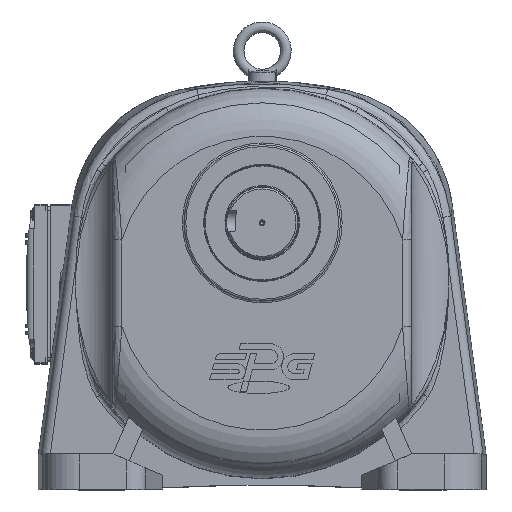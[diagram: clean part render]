
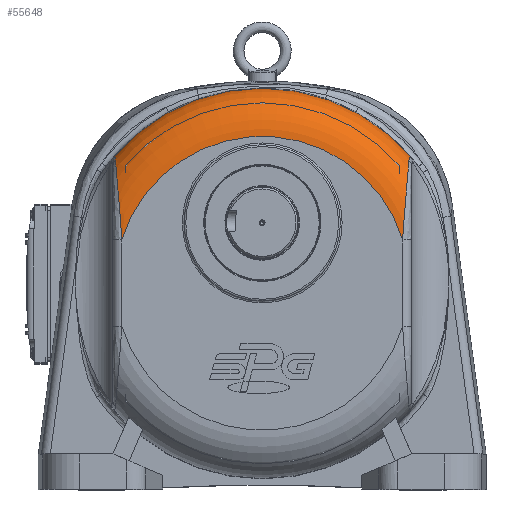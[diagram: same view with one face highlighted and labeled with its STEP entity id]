
A CAD part, top view. The second image highlights one B-rep face of the part: STEP entity #55648.
In plain terms, the highlighted toroidal (fillet/blend) face has major radius 82.678 mm and minor radius 27 mm.
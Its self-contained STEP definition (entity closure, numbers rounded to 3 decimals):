
#650=TOROIDAL_SURFACE('',#60806,82.678,27.);
#11547=FACE_OUTER_BOUND('',#14895,.T.);
#14895=EDGE_LOOP('',(#46139,#46140,#46141,#46142,#46143,#46144));
#18086=CIRCLE('',#60778,109.669);
#18092=CIRCLE('',#60807,82.678);
#20393=B_SPLINE_CURVE_WITH_KNOTS('',3,(#123357,#123358,#123359,#123360,
#123361),.UNSPECIFIED.,.F.,.F.,(4,1,4),(-0.783,-0.447,
0.),.UNSPECIFIED.);
#20394=B_SPLINE_CURVE_WITH_KNOTS('',3,(#123363,#123364,#123365,#123366,
#123367,#123368,#123369,#123370,#123371,#123372),.UNSPECIFIED.,.F.,.F.,
(4,1,1,1,1,1,1,4),(-4.597,-3.776,-3.284,
-1.97,-1.642,-0.657,-0.493,
0.),.UNSPECIFIED.);
#20395=B_SPLINE_CURVE_WITH_KNOTS('',3,(#123376,#123377,#123378,#123379,
#123380,#123381,#123382,#123383,#123384),.UNSPECIFIED.,.F.,.F.,(4,1,1,1,
1,1,4),(-14.071,-13.415,-12.758,-12.43,
-12.101,-10.788,-9.474),.UNSPECIFIED.);
#20396=B_SPLINE_CURVE_WITH_KNOTS('',3,(#123385,#123386,#123387,#123388,
#123389),.UNSPECIFIED.,.F.,.F.,(4,1,4),(-0.783,-0.447,
0.),.UNSPECIFIED.);
#24434=VERTEX_POINT('',#122975);
#24436=VERTEX_POINT('',#122996);
#24460=VERTEX_POINT('',#123356);
#24461=VERTEX_POINT('',#123362);
#24462=VERTEX_POINT('',#123373);
#24463=VERTEX_POINT('',#123375);
#31895=EDGE_CURVE('',#24434,#24436,#18086,.T.);
#31940=EDGE_CURVE('',#24460,#24436,#20393,.T.);
#31941=EDGE_CURVE('',#24461,#24460,#20394,.T.);
#31942=EDGE_CURVE('',#24461,#24462,#18092,.T.);
#31943=EDGE_CURVE('',#24463,#24462,#20395,.T.);
#31944=EDGE_CURVE('',#24434,#24463,#20396,.T.);
#46139=ORIENTED_EDGE('',*,*,#31895,.T.);
#46140=ORIENTED_EDGE('',*,*,#31940,.F.);
#46141=ORIENTED_EDGE('',*,*,#31941,.F.);
#46142=ORIENTED_EDGE('',*,*,#31942,.T.);
#46143=ORIENTED_EDGE('',*,*,#31943,.F.);
#46144=ORIENTED_EDGE('',*,*,#31944,.F.);
#55648=ADVANCED_FACE('',(#11547),#650,.T.);
#60778=AXIS2_PLACEMENT_3D('',#123003,#73154,#73155);
#60806=AXIS2_PLACEMENT_3D('',#123355,#73235,#73236);
#60807=AXIS2_PLACEMENT_3D('',#123374,#73237,#73238);
#73154=DIRECTION('center_axis',(0.,0.,1.));
#73155=DIRECTION('ref_axis',(-1.,0.,0.));
#73235=DIRECTION('center_axis',(0.,0.,-1.));
#73236=DIRECTION('ref_axis',(-1.,0.,0.));
#73237=DIRECTION('center_axis',(0.,0.,-1.));
#73238=DIRECTION('ref_axis',(-1.,0.,0.));
#122975=CARTESIAN_POINT('',(91.232,73.2,33.186));
#122996=CARTESIAN_POINT('',(-76.592,73.2,33.186));
#123003=CARTESIAN_POINT('Origin',(7.32,2.588,33.186));
#123355=CARTESIAN_POINT('Origin',(7.32,2.588,32.5));
#123356=CARTESIAN_POINT('',(-75.246,71.941,42.318));
#123357=CARTESIAN_POINT('Ctrl Pts',(-75.246,71.941,
42.318));
#123358=CARTESIAN_POINT('Ctrl Pts',(-75.298,72.591,
41.145));
#123359=CARTESIAN_POINT('Ctrl Pts',(-75.537,73.783,
38.106));
#123360=CARTESIAN_POINT('Ctrl Pts',(-76.159,73.648,
34.864));
#123361=CARTESIAN_POINT('Ctrl Pts',(-76.592,73.2,
33.186));
#123362=CARTESIAN_POINT('',(-71.68,26.972,59.5));
#123363=CARTESIAN_POINT('Ctrl Pts',(-71.68,26.972,59.5));
#123364=CARTESIAN_POINT('Ctrl Pts',(-71.855,29.764,59.5));
#123365=CARTESIAN_POINT('Ctrl Pts',(-72.17,34.27,
59.415));
#123366=CARTESIAN_POINT('Ctrl Pts',(-72.876,43.403,
58.681));
#123367=CARTESIAN_POINT('Ctrl Pts',(-73.514,51.012,57.228));
#123368=CARTESIAN_POINT('Ctrl Pts',(-74.269,60.011,
53.662));
#123369=CARTESIAN_POINT('Ctrl Pts',(-74.673,64.877,
50.691));
#123370=CARTESIAN_POINT('Ctrl Pts',(-75.043,69.41,46.159));
#123371=CARTESIAN_POINT('Ctrl Pts',(-75.17,70.987,
44.041));
#123372=CARTESIAN_POINT('Ctrl Pts',(-75.246,71.941,
42.318));
#123373=CARTESIAN_POINT('',(86.32,26.972,59.5));
#123374=CARTESIAN_POINT('Origin',(7.32,2.588,59.5));
#123375=CARTESIAN_POINT('',(89.887,71.941,42.318));
#123376=CARTESIAN_POINT('Ctrl Pts',(89.887,71.941,42.318));
#123377=CARTESIAN_POINT('Ctrl Pts',(89.785,70.669,44.615));
#123378=CARTESIAN_POINT('Ctrl Pts',(89.515,67.323,48.704));
#123379=CARTESIAN_POINT('Ctrl Pts',(89.09,62.18,52.331));
#123380=CARTESIAN_POINT('Ctrl Pts',(88.721,57.76,54.554));
#123381=CARTESIAN_POINT('Ctrl Pts',(88.156,51.015,57.223));
#123382=CARTESIAN_POINT('Ctrl Pts',(87.272,40.479,59.239));
#123383=CARTESIAN_POINT('Ctrl Pts',(86.601,31.44,59.5));
#123384=CARTESIAN_POINT('Ctrl Pts',(86.32,26.972,59.5));
#123385=CARTESIAN_POINT('Ctrl Pts',(91.232,73.2,33.186));
#123386=CARTESIAN_POINT('Ctrl Pts',(90.908,73.536,34.445));
#123387=CARTESIAN_POINT('Ctrl Pts',(90.239,73.853,37.649));
#123388=CARTESIAN_POINT('Ctrl Pts',(89.956,72.808,40.754));
#123389=CARTESIAN_POINT('Ctrl Pts',(89.887,71.941,42.318));
